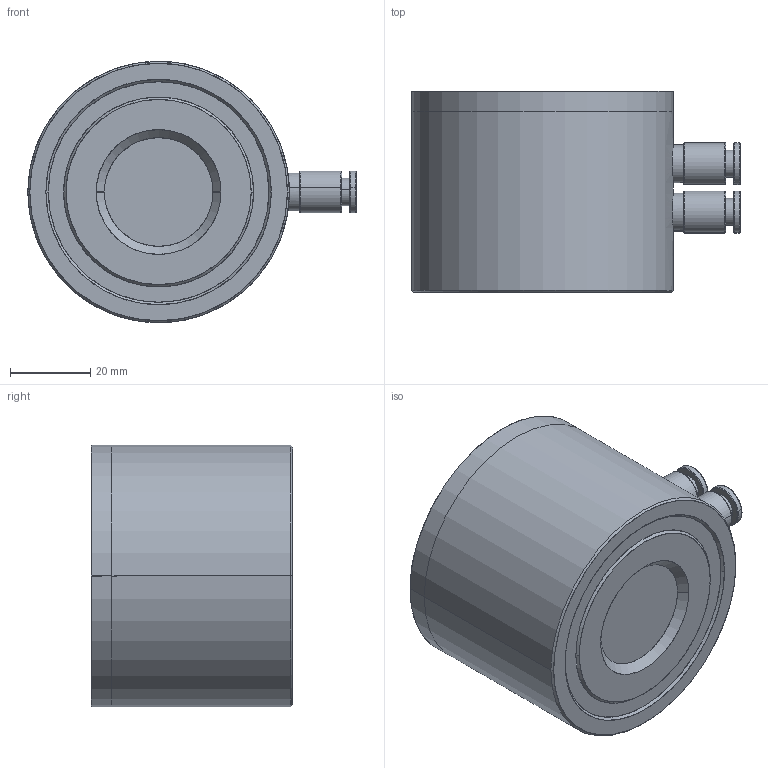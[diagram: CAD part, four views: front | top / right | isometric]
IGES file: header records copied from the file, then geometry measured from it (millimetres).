
Start section: SolidWorks IGES file using analytic representation for surfaces
Global section: file name: Y:\Ixtur\_Personnel\Juho\3D dummyt\MAP-30 3D-Mallit\MAP-30 3D-model.IGS; native system: SolidWorks 2014; preprocessor: SolidWorks 2014; author: juho.suominen; date: 150212.085456; units: millimetre
Bounding box: 81.6 x 50 x 65 mm (x, y, z)
Surface area: 19559.8 mm2 (no closed solid volume)
Topology: 0 solids, 0 shells, 191 faces, 2620 edges, 2620 vertices
Faces by surface type: bspline 111, revolution 80
